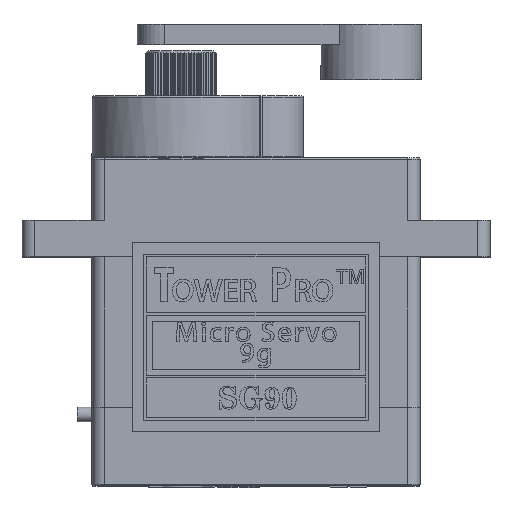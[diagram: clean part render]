
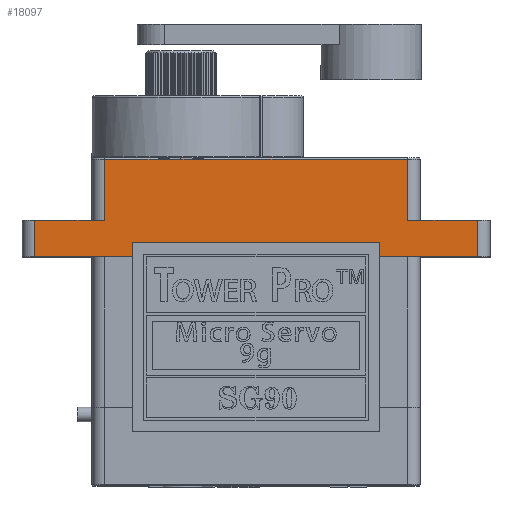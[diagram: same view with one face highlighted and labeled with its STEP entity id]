
A CAD part, top view. The second image highlights one B-rep face of the part: STEP entity #18097.
In plain terms, the highlighted planar face has unit normal (0, 0, 1).
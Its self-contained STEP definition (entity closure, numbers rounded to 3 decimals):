
#1371=PLANE('',#19204);
#2055=FACE_OUTER_BOUND('',#2990,.T.);
#2990=EDGE_LOOP('',(#15868,#15869,#15870,#15871,#15872,#15873,#15874,#15875,
#15876,#15877,#15878));
#4568=LINE('',#42367,#6252);
#4571=LINE('',#42381,#6255);
#4573=LINE('',#42386,#6257);
#4574=LINE('',#42388,#6258);
#4575=LINE('',#42389,#6259);
#4576=LINE('',#42391,#6260);
#4577=LINE('',#42393,#6261);
#4578=LINE('',#42395,#6262);
#4579=LINE('',#42397,#6263);
#4580=LINE('',#42399,#6264);
#4581=LINE('',#42400,#6265);
#6252=VECTOR('',#22561,4.8);
#6255=VECTOR('',#22574,2.5);
#6257=VECTOR('',#22578,10.);
#6258=VECTOR('',#22579,3.688);
#6259=VECTOR('',#22580,4.2);
#6260=VECTOR('',#22581,30.4);
#6261=VECTOR('',#22582,2.5);
#6262=VECTOR('',#22583,4.8);
#6263=VECTOR('',#22584,4.2);
#6264=VECTOR('',#22585,13.988);
#6265=VECTOR('',#22586,10.);
#8683=VERTEX_POINT('',#42364);
#8684=VERTEX_POINT('',#42366);
#8690=VERTEX_POINT('',#42379);
#8691=VERTEX_POINT('',#42384);
#8692=VERTEX_POINT('',#42385);
#8693=VERTEX_POINT('',#42387);
#8694=VERTEX_POINT('',#42390);
#8695=VERTEX_POINT('',#42392);
#8696=VERTEX_POINT('',#42394);
#8697=VERTEX_POINT('',#42396);
#8698=VERTEX_POINT('',#42398);
#11152=EDGE_CURVE('',#8683,#8684,#4568,.T.);
#11159=EDGE_CURVE('',#8683,#8690,#4571,.T.);
#11161=EDGE_CURVE('',#8691,#8692,#4573,.T.);
#11162=EDGE_CURVE('',#8691,#8693,#4574,.T.);
#11163=EDGE_CURVE('',#8693,#8684,#4575,.T.);
#11164=EDGE_CURVE('',#8690,#8694,#4576,.T.);
#11165=EDGE_CURVE('',#8695,#8694,#4577,.T.);
#11166=EDGE_CURVE('',#8696,#8695,#4578,.T.);
#11167=EDGE_CURVE('',#8697,#8696,#4579,.T.);
#11168=EDGE_CURVE('',#8697,#8698,#4580,.T.);
#11169=EDGE_CURVE('',#8692,#8698,#4581,.T.);
#15868=ORIENTED_EDGE('',*,*,#11161,.F.);
#15869=ORIENTED_EDGE('',*,*,#11162,.T.);
#15870=ORIENTED_EDGE('',*,*,#11163,.T.);
#15871=ORIENTED_EDGE('',*,*,#11152,.F.);
#15872=ORIENTED_EDGE('',*,*,#11159,.T.);
#15873=ORIENTED_EDGE('',*,*,#11164,.T.);
#15874=ORIENTED_EDGE('',*,*,#11165,.F.);
#15875=ORIENTED_EDGE('',*,*,#11166,.F.);
#15876=ORIENTED_EDGE('',*,*,#11167,.F.);
#15877=ORIENTED_EDGE('',*,*,#11168,.T.);
#15878=ORIENTED_EDGE('',*,*,#11169,.F.);
#18097=ADVANCED_FACE('',(#2055),#1371,.F.);
#19204=AXIS2_PLACEMENT_3D('',#42383,#22576,#22577);
#22561=DIRECTION('',(1.,0.,0.));
#22574=DIRECTION('',(0.,-1.,0.));
#22576=DIRECTION('center_axis',(0.,0.,-1.));
#22577=DIRECTION('ref_axis',(-1.,0.,0.));
#22578=DIRECTION('',(1.,0.,0.));
#22579=DIRECTION('',(-1.,0.,0.));
#22580=DIRECTION('',(0.,-1.,0.));
#22581=DIRECTION('',(1.,0.,0.));
#22582=DIRECTION('',(0.,-1.,0.));
#22583=DIRECTION('',(1.,0.,0.));
#22584=DIRECTION('',(0.,-1.,0.));
#22585=DIRECTION('',(-1.,0.,0.));
#22586=DIRECTION('',(1.,0.,0.));
#42364=CARTESIAN_POINT('',(-15.2,7.65,6.1));
#42366=CARTESIAN_POINT('',(-10.4,7.65,6.1));
#42367=CARTESIAN_POINT('',(-15.2,7.65,6.1));
#42379=CARTESIAN_POINT('',(-15.2,5.15,6.1));
#42381=CARTESIAN_POINT('',(-15.2,7.65,6.1));
#42383=CARTESIAN_POINT('Origin',(-15.2,7.65,6.1));
#42384=CARTESIAN_POINT('',(-6.712,11.85,6.1));
#42385=CARTESIAN_POINT('',(-5.15,11.85,6.1));
#42386=CARTESIAN_POINT('',(-6.712,11.85,6.1));
#42387=CARTESIAN_POINT('',(-10.4,11.85,6.1));
#42388=CARTESIAN_POINT('',(-6.712,11.85,6.1));
#42389=CARTESIAN_POINT('',(-10.4,11.85,6.1));
#42390=CARTESIAN_POINT('',(15.2,5.15,6.1));
#42391=CARTESIAN_POINT('',(-15.2,5.15,6.1));
#42392=CARTESIAN_POINT('',(15.2,7.65,6.1));
#42393=CARTESIAN_POINT('',(15.2,7.65,6.1));
#42394=CARTESIAN_POINT('',(10.4,7.65,6.1));
#42395=CARTESIAN_POINT('',(10.4,7.65,6.1));
#42396=CARTESIAN_POINT('',(10.4,11.85,6.1));
#42397=CARTESIAN_POINT('',(10.4,11.85,6.1));
#42398=CARTESIAN_POINT('',(-3.588,11.85,6.1));
#42399=CARTESIAN_POINT('',(10.4,11.85,6.1));
#42400=CARTESIAN_POINT('',(-5.15,11.85,6.1));
